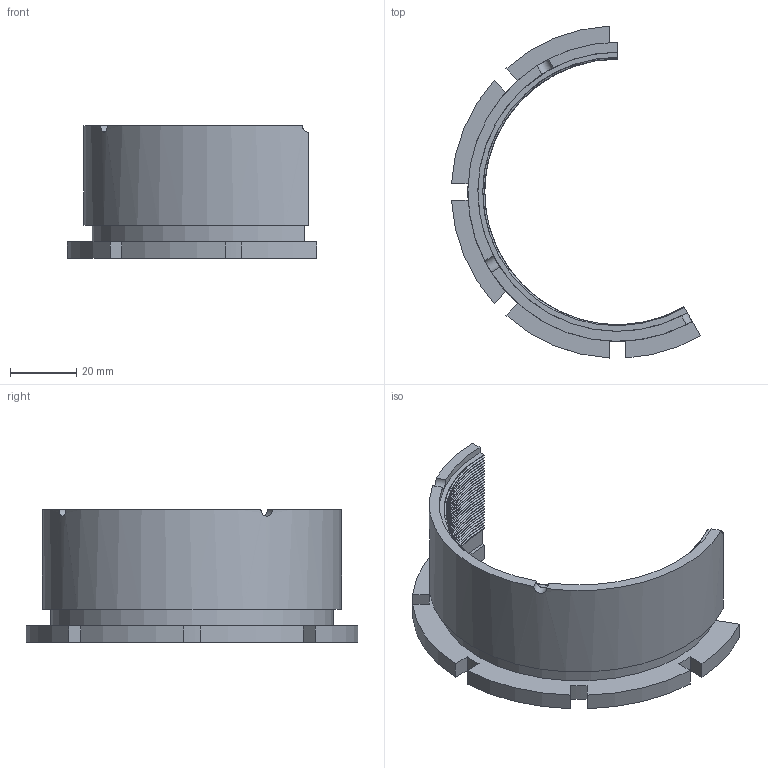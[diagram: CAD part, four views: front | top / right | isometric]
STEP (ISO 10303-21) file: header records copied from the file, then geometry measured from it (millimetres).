
FILE_DESCRIPTION(/* description */ ('CAx-IF Rec.Pracs.---Representation and Presentation of Product Manufacturing Information (PMI)---4.0---2014-10-13','CAx-IF Rec.Pracs.---3D Tessellated Geometry---0.4---2014-09-14','2;1'),/* implementation_level */ '2;1');
FILE_NAME(/* name */ 'czesc_gwintowana_wyciecia_section',/* time_stamp */ '2020-03-20T18:03:35+01:00',/* author */ (''),/* organization */ (''),/* preprocessor_version */ 'ST-DEVELOPER v16.7',/* originating_system */ 'SIEMENS PLM Software NX 1847',/* authorisation */ $);
FILE_SCHEMA (('AP242_MANAGED_MODEL_BASED_3D_ENGINEERING_MIM_LF { 1 0 10303 442 1 1 4 }'));
Length unit declared in the file: millimetre
Products named in the file (1): czesc_gwintowana_wyciecia_section
Bounding box: 74.94 x 99.87 x 40 mm (x, y, z)
Volume: 30363.7 mm3; surface area: 19468.3 mm2
Topology: 1 solids, 1 shells, 151 faces, 444 edges, 295 vertices
Faces by surface type: cylinder 75, bspline 56, plane 19, cone 1
Entity records: 10578 total; most frequent: CARTESIAN_POINT 5986, ORIENTED_EDGE 888, DIRECTION 457, EDGE_CURVE 444, VERTEX_POINT 295, B_SPLINE_CURVE_WITH_KNOTS 232, LINE 175, VECTOR 175
